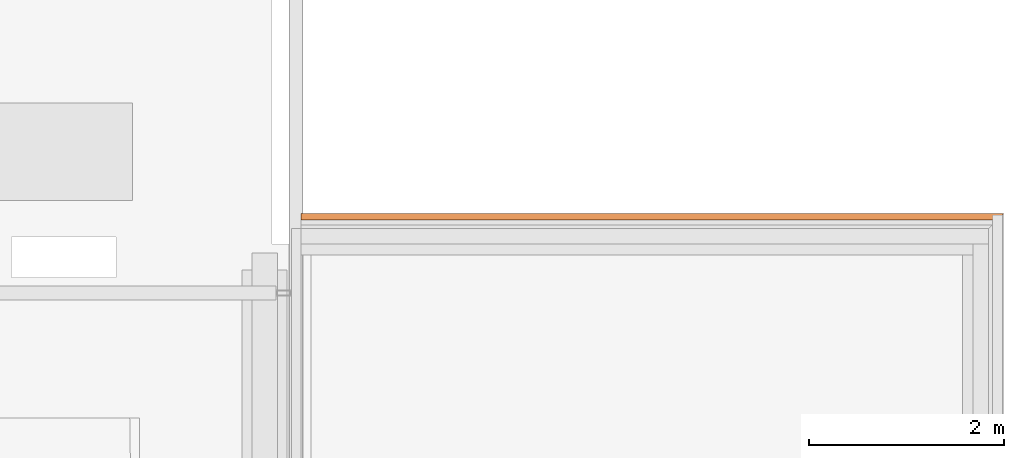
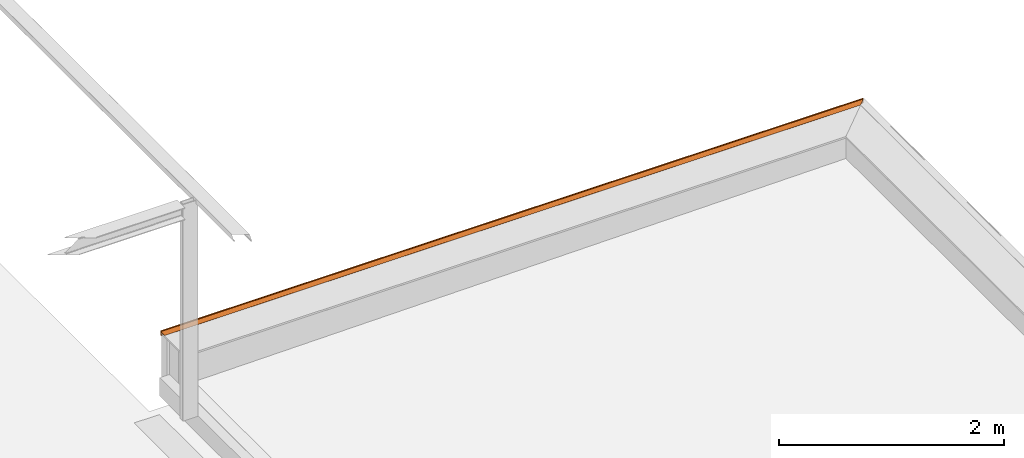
# One storey, part 32 of 32: 1 proxy.
"""IFC2X3 building model written with IfcOpenShell, lengths in millimetres."""

import ifcopenshell
import ifcopenshell.guid

model = None  # the IFC model being written
_history = None  # IfcOwnerHistory: only IFC2X3 demands one
_inside = {}  # id of a spatial element -> (the spatial element, [elements in it])
_under = {}  # id of a project, library or spatial element -> (it, [spatial elements below it])
_declared = {}  # id of a project -> (the project, [libraries it declares])
_typed = {}  # id of a type object -> (the type object, [elements of that type])
_made_of = {}  # id of a material, layer set ... -> (it, [elements and type objects made of it])


def new_model(schema):
    """Start an empty IFC model of exactly this schema.

    Asked for "IFC4X3", IfcOpenShell would pick the latest addendum, in which some entities
    have other attributes; the version numbers below select the first issue.
    IFC2X3 requires an IfcOwnerHistory on every rooted entity: one is made here for all.
    """
    global model, _history
    if schema == "IFC4X3":
        model = ifcopenshell.file(schema_version=(4, 3, 0, 0))
    else:
        model = ifcopenshell.file(schema=schema)
    _inside.clear()
    _under.clear()
    _declared.clear()
    _typed.clear()
    _made_of.clear()
    _history = None
    if model.schema == "IFC2X3":
        org = make("IfcOrganization", Name="unknown")
        user = make(
            "IfcPersonAndOrganization",
            ThePerson=make("IfcPerson", FamilyName="unknown"),
            TheOrganization=org,
        )
        app = make(
            "IfcApplication",
            ApplicationDeveloper=org,
            Version="unknown",
            ApplicationFullName="unknown",
            ApplicationIdentifier="unknown",
        )
        _history = make(
            "IfcOwnerHistory",
            OwningUser=user,
            OwningApplication=app,
            ChangeAction="ADDED",
            CreationDate=0,
        )
    return model


def make(cls, **values):
    """One entity of the class cls with the attributes given. An attribute that is None is left unset."""
    return model.create_entity(
        cls, **{name: value for name, value in values.items() if value is not None}
    )


def entity(cls, *values):
    """Any entity or typed value of the class cls, its attributes in the order of the schema. None: left unset."""
    e = model.create_entity(cls)
    for i, value in enumerate(values):
        if value is not None:
            e[i] = value
    return e


def rooted(cls, **values):
    """An entity with a GlobalId (a new one), such as an element, a storey or a relation."""
    return make(cls, GlobalId=ifcopenshell.guid.new(), OwnerHistory=_history, **values)


def si_unit(unit_type, name, prefix=None):
    """IfcSIUnit, for example si_unit("LENGTHUNIT", "METRE", prefix="MILLI")."""
    return make("IfcSIUnit", UnitType=unit_type, Prefix=prefix, Name=name)


def converted_unit(unit_type, name, factor, base, dimensions=None, offset=None):
    """IfcConversionBasedUnit, such as the inch: factor (a typed value) times the base unit."""
    return make(
        "IfcConversionBasedUnit"
        if offset is None
        else "IfcConversionBasedUnitWithOffset",
        ConversionOffset=offset,
        Dimensions=None
        if dimensions is None
        else entity("IfcDimensionalExponents", *dimensions),
        UnitType=unit_type,
        Name=name,
        ConversionFactor=make(
            "IfcMeasureWithUnit", ValueComponent=factor, UnitComponent=base
        ),
    )


def derived_unit(unit_type, elements):
    """IfcDerivedUnit: a product of units, each with its exponent."""
    return make(
        "IfcDerivedUnit",
        Elements=[
            make("IfcDerivedUnitElement", Unit=unit, Exponent=power)
            for unit, power in elements
        ],
        UnitType=unit_type,
    )


def assignment(units):
    """IfcUnitAssignment: the units of a project."""
    return None if units is None else make("IfcUnitAssignment", Units=units)


def point(xyz):
    """IfcCartesianPoint."""
    return None if xyz is None else make("IfcCartesianPoint", Coordinates=xyz)


def direction(xyz):
    """IfcDirection."""
    return None if xyz is None else make("IfcDirection", DirectionRatios=xyz)


def frame(location, z_axis=None, x_axis=None):
    """IfcAxis2Placement3D, a coordinate frame: its origin and axes. An axis left out is left unset."""
    return make(
        "IfcAxis2Placement3D",
        Location=point(location),
        Axis=direction(z_axis),
        RefDirection=direction(x_axis),
    )


def origin():
    """The frame at (0, 0, 0) with its axes left unset."""
    return frame((0.0, 0.0, 0.0))


def place(relative_to, where):
    """IfcLocalPlacement: puts the frame where relative to a parent placement (None: the world)."""
    return make(
        "IfcLocalPlacement", PlacementRelTo=relative_to, RelativePlacement=where
    )


def context(
    kind, dimensions, precision=None, world=None, true_north=None, identifier=None
):
    """IfcGeometricRepresentationContext, for example the 3D "Model" context."""
    return make(
        "IfcGeometricRepresentationContext",
        ContextIdentifier=identifier,
        ContextType=kind,
        CoordinateSpaceDimension=dimensions,
        Precision=precision,
        WorldCoordinateSystem=world,
        TrueNorth=true_north,
    )


def subcontext(parent, identifier, kind, view, scale=None):
    """IfcGeometricRepresentationSubContext, for example "Body" below "Model"."""
    return make(
        "IfcGeometricRepresentationSubContext",
        ContextIdentifier=identifier,
        ContextType=kind,
        ParentContext=parent,
        TargetScale=scale,
        TargetView=view,
    )


def project(units=None, contexts=None):
    """IfcProject with its units and contexts."""
    return rooted(
        "IfcProject",
        Name="project",
        RepresentationContexts=contexts,
        UnitsInContext=assignment(units),
    )


def spatial(cls, under=None, at=None, **own):
    """A site, building, storey or space (cls), placed at a placement, below another one or the project."""
    s = rooted(cls, ObjectPlacement=at, **own)
    if under is not None:
        _under.setdefault(under.id(), (under, []))[1].append(s)
    return s


def faces_of(points, faces, orient=None, outer=None):
    """IfcFace entities. A face is a list of loops; a loop is a list of indices into points, from 0.

    orient and outer hold one flag for each loop. By default every Orientation is true, the
    first loop of a face is its IfcFaceOuterBound and the others are IfcFaceBound.
    """
    made = []
    for i, loops in enumerate(faces):
        bounds = []
        for j, loop in enumerate(loops):
            is_outer = j == 0 if outer is None else outer[i][j]
            bounds.append(
                make(
                    "IfcFaceOuterBound" if is_outer else "IfcFaceBound",
                    Bound=make("IfcPolyLoop", Polygon=[points[k] for k in loop]),
                    Orientation=True if orient is None else orient[i][j],
                )
            )
        made.append(make("IfcFace", Bounds=bounds))
    return made


def faceted_brep(points, faces, orient=None, outer=None, voids=None):
    """IfcFacetedBrep: a solid bounded by flat faces; with voids (closed shells), ...WithVoids."""
    shared = [point(p) for p in points]
    hull = make("IfcClosedShell", CfsFaces=faces_of(shared, faces, orient, outer))
    if voids is None:
        return make("IfcFacetedBrep", Outer=hull)
    return make(
        "IfcFacetedBrepWithVoids",
        Outer=hull,
        Voids=[
            make(cls, CfsFaces=faces_of(shared, fs, o, b)) for cls, fs, o, b in voids
        ],
    )


def shape(context_of_items, identifier, shape_type, items):
    """IfcShapeRepresentation: the items that make up one representation, for example the "Body"."""
    return make(
        "IfcShapeRepresentation",
        ContextOfItems=context_of_items,
        RepresentationIdentifier=identifier,
        RepresentationType=shape_type,
        Items=items,
    )


def source(mapping_origin, context_of_items, identifier, shape_type, items):
    """IfcRepresentationMap: a shape defined once, which mapped items show again and again."""
    return make(
        "IfcRepresentationMap",
        MappingOrigin=mapping_origin,
        MappedRepresentation=shape(context_of_items, identifier, shape_type, items),
    )


def transform(
    local_origin,
    x_axis=None,
    y_axis=None,
    z_axis=None,
    scale=None,
    scale2=None,
    scale3=None,
    uniform=True,
):
    """IfcCartesianTransformationOperator3D, or its non-uniform kind. x_axis, y_axis, z_axis: its Axis1, 2, 3."""
    if uniform:
        return make(
            "IfcCartesianTransformationOperator3D",
            Axis1=direction(x_axis),
            Axis2=direction(y_axis),
            LocalOrigin=point(local_origin),
            Scale=scale,
            Axis3=direction(z_axis),
        )
    return make(
        "IfcCartesianTransformationOperator3DnonUniform",
        Axis1=direction(x_axis),
        Axis2=direction(y_axis),
        LocalOrigin=point(local_origin),
        Scale=scale,
        Axis3=direction(z_axis),
        Scale2=scale2,
        Scale3=scale3,
    )


def mapped(mapping_source, mapping_target):
    """IfcMappedItem: shows the shape of a source again, moved by a transform."""
    return make(
        "IfcMappedItem", MappingSource=mapping_source, MappingTarget=mapping_target
    )


def material(Name=None, Category=None):
    """IfcMaterial."""
    return make("IfcMaterial", Name=Name, Category=Category)


def made_of(thing, what):
    """Note that an element or type object is made of a material, layer set ...; save() writes the relation."""
    if what is not None:
        _made_of.setdefault(what.id(), (what, []))[1].append(thing)
    return thing


def type_object(cls, material=None, **own):
    """A type object (cls), such as IfcWallType, which elements share."""
    return made_of(rooted(cls, **own), material)


def type_shapes(of_type, sources):
    """Give a type object the sources (RepresentationMaps) that its elements show as mapped items."""
    of_type.RepresentationMaps = sources


def element(
    cls,
    number,
    at=None,
    inside=None,
    cuts=None,
    type_object=None,
    material=None,
    context=None,
    identifier="Body",
    shape_type=None,
    held_by="IfcProductDefinitionShape",
    body=None,
    shapes=None,
    **own,
):
    """One element of the class cls, such as IfcWall. Its Tag is "e" and its number.

    at: its placement. inside: the storey or other place that contains it. cuts: it is an
    opening in that element (IfcRelVoidsElement). A single representation is given by context,
    identifier, shape_type and body (its items); several are given by shapes. held_by: the class
    of the entity that holds the representations. save() writes the other relations.
    """
    e = rooted(cls, Tag="e%d" % number, ObjectPlacement=at, **own)
    if body is not None:
        shapes = [shape(context, identifier, shape_type, body)]
    if shapes is not None:
        e.Representation = make(held_by, Representations=shapes)
    if inside is not None:
        _inside.setdefault(inside.id(), (inside, []))[1].append(e)
    if cuts is not None:
        rooted(
            "IfcRelVoidsElement", RelatingBuildingElement=cuts, RelatedOpeningElement=e
        )
    if type_object is not None:
        _typed.setdefault(type_object.id(), (type_object, []))[1].append(e)
    return made_of(e, material)


def aggregate(whole, parts):
    """IfcRelAggregates: a whole, such as a stair, and the parts it consists of."""
    return rooted("IfcRelAggregates", RelatingObject=whole, RelatedObjects=parts)


def save(model, path):
    """Write the relations noted so far, then the file.

    IfcRelAggregates (storeys below a building ...), IfcRelContainedInSpatialStructure (elements
    in a storey), IfcRelDefinesByType, IfcRelAssociatesMaterial and IfcRelDeclares: one each for
    every whole, place, type object, material and project.
    """
    for whole, parts in _under.values():
        aggregate(whole, parts)
    for where, things in _inside.values():
        rooted(
            "IfcRelContainedInSpatialStructure",
            RelatedElements=things,
            RelatingStructure=where,
        )
    for kind, things in _typed.values():
        rooted("IfcRelDefinesByType", RelatedObjects=things, RelatingType=kind)
    for what, things in _made_of.values():
        rooted("IfcRelAssociatesMaterial", RelatedObjects=things, RelatingMaterial=what)
    for by, libraries in _declared.values():
        rooted("IfcRelDeclares", RelatingContext=by, RelatedDefinitions=libraries)
    model.write(path)


model = new_model("IFC2X3")

# Units and contexts
model_context = context("Model", 3, precision=0.01, world=origin(), true_north=direction((6.123031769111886e-17, 1.0)))
body_context = subcontext(model_context, "Body", "Model", "MODEL_VIEW")
ifc_project = project(units=[si_unit("LENGTHUNIT", "METRE", prefix="MILLI"), si_unit("AREAUNIT", "SQUARE_METRE"), si_unit("VOLUMEUNIT", "CUBIC_METRE"), converted_unit("PLANEANGLEUNIT", "DEGREE", entity("IfcRatioMeasure", 0.017453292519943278), si_unit("PLANEANGLEUNIT", "RADIAN"), dimensions=[0, 0, 0, 0, 0, 0, 0]), si_unit("MASSUNIT", "GRAM", prefix="KILO"), derived_unit("MASSDENSITYUNIT", [(si_unit("MASSUNIT", "GRAM", prefix="KILO"), 1), (si_unit("LENGTHUNIT", "METRE"), -3)]), derived_unit("IONCONCENTRATIONUNIT", [(si_unit("MASSUNIT", "GRAM", prefix="KILO"), 1), (si_unit("LENGTHUNIT", "METRE"), -3)]), derived_unit("MOMENTOFINERTIAUNIT", [(si_unit("LENGTHUNIT", "METRE"), 4)]), si_unit("TIMEUNIT", "SECOND"), si_unit("FREQUENCYUNIT", "HERTZ"), si_unit("THERMODYNAMICTEMPERATUREUNIT", "DEGREE_CELSIUS"), derived_unit("THERMALTRANSMITTANCEUNIT", [(si_unit("MASSUNIT", "GRAM", prefix="KILO"), 1), (si_unit("THERMODYNAMICTEMPERATUREUNIT", "KELVIN"), -1), (si_unit("TIMEUNIT", "SECOND"), -3)]), derived_unit("THERMALCONDUCTANCEUNIT", [(si_unit("MASSUNIT", "GRAM", prefix="KILO"), 1), (si_unit("THERMODYNAMICTEMPERATUREUNIT", "KELVIN"), -1), (si_unit("TIMEUNIT", "SECOND"), -3), (si_unit("LENGTHUNIT", "METRE"), 1)]), derived_unit("VOLUMETRICFLOWRATEUNIT", [(si_unit("LENGTHUNIT", "METRE"), 3), (si_unit("TIMEUNIT", "SECOND"), -1)]), derived_unit("MASSFLOWRATEUNIT", [(si_unit("MASSUNIT", "GRAM", prefix="KILO"), 1), (si_unit("TIMEUNIT", "SECOND"), -1)]), derived_unit("ROTATIONALFREQUENCYUNIT", [(si_unit("TIMEUNIT", "SECOND"), -1)]), si_unit("ELECTRICCURRENTUNIT", "AMPERE"), si_unit("ELECTRICVOLTAGEUNIT", "VOLT"), si_unit("POWERUNIT", "WATT"), si_unit("FORCEUNIT", "NEWTON", prefix="KILO"), si_unit("ILLUMINANCEUNIT", "LUX"), si_unit("LUMINOUSFLUXUNIT", "LUMEN"), si_unit("LUMINOUSINTENSITYUNIT", "CANDELA"), derived_unit("USERDEFINED", [(si_unit("MASSUNIT", "GRAM", prefix="KILO"), -1), (si_unit("LENGTHUNIT", "METRE"), -2), (si_unit("TIMEUNIT", "SECOND"), 3), (si_unit("LUMINOUSFLUXUNIT", "LUMEN"), 1)]), derived_unit("USERDEFINED", [(si_unit("MASSUNIT", "GRAM", prefix="KILO"), 1), (si_unit("TIMEUNIT", "SECOND"), -3), (si_unit("LENGTHUNIT", "METRE"), 3), (si_unit("ELECTRICCURRENTUNIT", "AMPERE"), -2)]), derived_unit("SOUNDPOWERUNIT", [(si_unit("MASSUNIT", "GRAM", prefix="KILO"), 1), (si_unit("TIMEUNIT", "SECOND"), -3), (si_unit("LENGTHUNIT", "METRE"), 2)]), derived_unit("SOUNDPRESSUREUNIT", [(si_unit("MASSUNIT", "GRAM", prefix="KILO"), 1), (si_unit("LENGTHUNIT", "METRE"), -1), (si_unit("TIMEUNIT", "SECOND"), -2)]), derived_unit("LINEARVELOCITYUNIT", [(si_unit("LENGTHUNIT", "METRE"), 1), (si_unit("TIMEUNIT", "SECOND"), -1)]), si_unit("PRESSUREUNIT", "PASCAL"), derived_unit("USERDEFINED", [(si_unit("MASSUNIT", "GRAM", prefix="KILO"), 1), (si_unit("LENGTHUNIT", "METRE"), -2), (si_unit("TIMEUNIT", "SECOND"), -2)]), derived_unit("LINEARFORCEUNIT", [(si_unit("MASSUNIT", "GRAM", prefix="KILO"), 1), (si_unit("TIMEUNIT", "SECOND"), -2)]), derived_unit("PLANARFORCEUNIT", [(si_unit("MASSUNIT", "GRAM", prefix="KILO"), 1), (si_unit("LENGTHUNIT", "METRE"), -1), (si_unit("TIMEUNIT", "SECOND"), -2)]), derived_unit("SPECIFICHEATCAPACITYUNIT", [(si_unit("THERMODYNAMICTEMPERATUREUNIT", "KELVIN"), -1), (si_unit("LENGTHUNIT", "METRE"), 2), (si_unit("TIMEUNIT", "SECOND"), -2)]), derived_unit("HEATINGVALUEUNIT", [(si_unit("LENGTHUNIT", "METRE"), 2), (si_unit("TIMEUNIT", "SECOND"), -2)]), derived_unit("VAPORPERMEABILITYUNIT", [(si_unit("LENGTHUNIT", "METRE"), -1), (si_unit("TIMEUNIT", "SECOND"), 1)]), derived_unit("DYNAMICVISCOSITYUNIT", [(si_unit("MASSUNIT", "GRAM", prefix="KILO"), 1), (si_unit("TIMEUNIT", "SECOND"), -1), (si_unit("LENGTHUNIT", "METRE"), -1)]), derived_unit("THERMALEXPANSIONCOEFFICIENTUNIT", [(si_unit("THERMODYNAMICTEMPERATUREUNIT", "KELVIN"), -1)]), derived_unit("MODULUSOFELASTICITYUNIT", [(si_unit("MASSUNIT", "GRAM", prefix="KILO"), 1), (si_unit("LENGTHUNIT", "METRE"), -1), (si_unit("TIMEUNIT", "SECOND"), -2)]), derived_unit("ISOTHERMALMOISTURECAPACITYUNIT", [(si_unit("LENGTHUNIT", "METRE"), 3), (si_unit("MASSUNIT", "GRAM", prefix="KILO"), -1)]), derived_unit("MOISTUREDIFFUSIVITYUNIT", [(si_unit("TIMEUNIT", "SECOND"), -1), (si_unit("LENGTHUNIT", "METRE"), 2)])], contexts=[model_context])

# Site, building, storey
site_placement = place(None, frame((0.0, 300.0, 0.0)))
site = spatial("IfcSite", under=ifc_project, at=site_placement, Name="<Kadastrale nummers>", CompositionType="ELEMENT")
building_placement = place(site_placement, origin())
building = spatial("IfcBuilding", under=site, at=building_placement, CompositionType="ELEMENT")
storey_placement = place(building_placement, frame((0.0, 0.0, 7150.000035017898)))
storey = spatial("IfcBuildingStorey", under=building, at=storey_placement, Name="02 tweede verdieping", CompositionType="ELEMENT", Elevation=7150.000035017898)

# Proxy
ifc_material = material(Name="STAAL_RAL 7006")
building_element_proxy_type = type_object("IfcBuildingElementProxyType", Name="NLRS_42_GM_WPB_dakrand_gen_ISR:dakrand_gen", PredefinedType="NOTDEFINED", material=ifc_material)
shared_shape = source(origin(), body_context, "Body", "Brep", [
    faceted_brep([(3608.5000000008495, 1.0, 14.0), (3608.5000000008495, 0.2928932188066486, 13.707106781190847), (3608.5000000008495, 0.0, 13.0), (3608.5000000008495, 0.0, -39.696774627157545), (3608.5000000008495, 0.4999999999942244, -40.562800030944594), (3608.5000000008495, 1.2588190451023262, -40.66270045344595), (3608.5000000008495, 11.252085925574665, -37.9850126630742), (3608.5000000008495, 11.95919270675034, -36.76026779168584), (3608.5000000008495, 10.734447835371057, -36.05316101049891), (3608.5000000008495, 3.2588190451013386, -38.05624970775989), (3608.5000000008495, 2.292893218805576, -37.797430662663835), (3608.5000000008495, 2.0, -37.0903238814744), (3608.5000000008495, 2.0, -28.0), (3608.5000000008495, 2.292893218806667, -27.292893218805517), (3608.5000000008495, 3.0, -27.0), (3608.5000000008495, 6.0, -27.0), (3608.5000000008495, 6.707106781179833, -26.707106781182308), (3608.5000000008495, 7.0, -26.0), (3608.5000000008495, 7.0, -23.0), (3608.5000000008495, 6.0, -22.0), (3608.5000000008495, 5.0, -23.0), (3608.5000000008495, 5.0, -24.0), (3608.5000000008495, 4.707106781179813, -24.707106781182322), (3608.5000000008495, 4.0, -25.0), (3608.5000000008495, 3.0, -25.0), (3608.5000000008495, 2.2928932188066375, -24.707106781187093), (3608.5000000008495, 2.0, -24.0), (3608.5000000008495, 2.0, -1.0), (3608.5000000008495, 2.2928932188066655, -0.29289321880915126), (3608.5000000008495, 3.0, 0.0), (3608.5000000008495, 4.0, 0.0), (3608.5000000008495, 4.7071067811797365, -0.2928932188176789), (3608.5000000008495, 5.0, -1.0), (3608.5000000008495, 5.0, -2.0), (3608.5000000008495, 6.0, -3.0), (3608.5000000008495, 7.0, -2.0), (3608.5000000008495, 7.0, -1.0), (3608.5000000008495, 7.292893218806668, -0.29289321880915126), (3608.5000000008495, 8.0, 0.0), (3608.5000000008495, 70.0, 0.0), (3608.5000000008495, 70.49999999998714, 0.4999999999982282), (3608.5000000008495, 70.0, 1.0), (3608.5000000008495, 65.49999999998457, 2.0), (3608.5000000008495, 3.0, 2.0), (3608.5000000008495, 2.2928932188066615, 2.292893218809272), (3608.5000000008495, 2.0, 3.0), (3608.5000000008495, 2.0, 11.0), (3608.5000000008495, 2.292893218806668, 11.707106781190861), (3608.5000000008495, 3.0, 12.0), (3608.5000000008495, 11.0, 12.0), (3608.5000000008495, 12.0, 13.0), (3608.5000000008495, 11.0, 14.0), (-3606.281831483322, 2.2181685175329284, 2.376510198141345), (-3606.500000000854, 2.0, 3.0), (-3605.500000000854, 3.0, 2.0), (-3606.123489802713, 2.3765101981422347, 11.781831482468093), (-3605.500000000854, 3.0, 12.0), (-3606.5000000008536, 2.0, 11.0), (-3597.500000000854, 11.0, 14.0), (-3596.5000000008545, 12.0, 13.0), (-3597.500000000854, 11.0, 12.0), (-3608.5000000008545, 0.0, 13.0), (-3608.281831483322, 0.21816851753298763, 13.62348980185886), (-3607.500000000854, 1.0, 14.0), (-3607.241180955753, 1.2588190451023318, -40.662700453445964), (-3608.0249765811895, 0.47502341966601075, -40.54789129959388), (-3608.5000000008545, 0.0, -39.69677462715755), (-3597.765552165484, 10.734447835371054, -36.05316101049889), (-3596.5408072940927, 11.959192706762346, -36.760267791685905), (-3597.24791407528, 11.252085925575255, -37.985012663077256), (-3606.500000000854, 2.0, -37.090323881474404), (-3606.1862416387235, 2.3137583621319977, -37.81769752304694), (-3605.2411809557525, 3.258819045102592, -38.056249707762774), (-3606.123489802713, 2.376510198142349, -27.21816851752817), (-3605.500000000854, 3.0, -27.0), (-3606.500000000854, 2.0, -28.0), (-3543.0, 65.49999999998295, 2.0), (-3538.500000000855, 70.0, 1.0), (-3538.0, 70.49999999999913, 0.49999999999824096), (-3538.500000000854, 70.0, 0.0), (-3600.500000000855, 8.0, 0.0), (-3605.500000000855, 3.0, 0.0), (-3604.500000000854, 4.0, 0.0), (-3601.123489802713, 7.376510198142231, -0.21816851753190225), (-3601.5000000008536, 7.0, -1.0), (-3601.5000000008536, 7.0, -2.0), (-3601.5000000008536, 7.0, -26.0), (-3601.5000000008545, 7.0, -23.0), (-3602.395471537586, 6.1045284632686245, -2.994521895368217), (-3603.500000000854, 5.0, -2.0), (-3603.500000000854, 5.0, -1.0), (-3603.500000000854, 5.0, -23.0), (-3603.5000000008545, 5.0, -24.0), (-3603.718168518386, 4.78183148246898, -0.37651019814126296), (-3606.123489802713, 2.376510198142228, -0.21816851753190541), (-3606.5000000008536, 2.0, -1.0), (-3606.500000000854, 2.0, -24.0), (-3606.281831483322, 2.2181685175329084, -24.623489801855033), (-3605.500000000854, 3.0, -25.0), (-3604.5000000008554, 4.0, -25.0), (-3603.8765101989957, 4.623489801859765, -24.781831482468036), (-3602.604528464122, 5.895471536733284, -22.00547810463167), (-3601.718168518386, 6.781831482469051, -26.62348980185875), (-3602.500000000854, 6.0, -27.0)], [[[0, 1, 2, 3, 4, 5, 6, 7, 8, 9, 10, 11, 12, 13, 14, 15, 16, 17, 18, 19, 20, 21, 22, 23, 24, 25, 26, 27, 28, 29, 30, 31, 32, 33, 34, 35, 36, 37, 38, 39, 40, 41, 42, 43, 44, 45, 46, 47, 48, 49, 50, 51]], [[45, 52, 53]], [[44, 52, 45]], [[43, 54, 44]], [[52, 44, 54]], [[48, 55, 56]], [[47, 55, 48]], [[46, 57, 47]], [[55, 47, 57]], [[58, 51, 50, 59]], [[49, 60, 59, 50]], [[61, 2, 62]], [[62, 2, 1]], [[1, 0, 63]], [[1, 63, 62]], [[64, 5, 4]], [[64, 4, 65]], [[65, 3, 66]], [[3, 65, 4]], [[67, 8, 7, 68]], [[6, 69, 68, 7]], [[11, 10, 70]], [[71, 70, 10]], [[9, 72, 71]], [[10, 9, 71]], [[14, 73, 74]], [[13, 73, 14]], [[12, 75, 13]], [[73, 13, 75]], [[76, 54, 43, 42]], [[77, 76, 42, 41]], [[77, 41, 40, 78]], [[39, 79, 78, 40]], [[80, 79, 39, 38]], [[81, 82, 30, 29]], [[38, 83, 80]], [[37, 83, 38]], [[36, 84, 37]], [[83, 37, 84]], [[85, 84, 36, 35]], [[86, 87, 18, 17]], [[85, 35, 88]], [[88, 35, 34]], [[34, 33, 89]], [[34, 89, 88]], [[90, 89, 33, 32]], [[91, 92, 21, 20]], [[32, 93, 90]], [[31, 93, 32]], [[30, 82, 31]], [[93, 31, 82]], [[29, 94, 81]], [[28, 94, 29]], [[27, 95, 28]], [[94, 28, 95]], [[96, 95, 27, 26]], [[70, 75, 12, 11]], [[53, 57, 46, 45]], [[26, 97, 96]], [[25, 97, 26]], [[24, 98, 25]], [[97, 25, 98]], [[99, 98, 24, 23]], [[23, 100, 99]], [[22, 100, 23]], [[21, 92, 22]], [[100, 22, 92]], [[91, 20, 101]], [[101, 20, 19]], [[19, 18, 87]], [[19, 87, 101]], [[86, 17, 102]], [[102, 17, 16]], [[16, 15, 103]], [[16, 103, 102]], [[74, 103, 15, 14]], [[67, 72, 9, 8]], [[64, 69, 6, 5]], [[61, 66, 3, 2]], [[58, 63, 0, 51]], [[56, 60, 49, 48]], [[61, 62, 63, 58, 59, 60, 56, 55, 57, 53, 52, 54, 76, 77, 78, 79, 80, 83, 84, 85, 88, 89, 90, 93, 82, 81, 94, 95, 96, 97, 98, 99, 100, 92, 91, 101, 87, 86, 102, 103, 74, 73, 75, 70, 71, 72, 67, 68, 69, 64, 65, 66]]]),
])
type_shapes(building_element_proxy_type, [shared_shape])
proxy_placement = place(storey_placement, frame((45383.500000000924, 47017.0, 567.9999649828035), z_axis=(0.0, 0.0, 1.0), x_axis=(-1.0, 0.0, 0.0)))
element("IfcBuildingElementProxy", 1, at=proxy_placement, inside=storey, type_object=building_element_proxy_type, material=ifc_material, Name="NLRS_42_GM_WPB_dakrand_gen_ISR:dakrand_gen", ObjectType="NLRS_42_GM_WPB_dakrand_gen_ISR:dakrand_gen", context=body_context, shape_type="MappedRepresentation", body=[
    mapped(shared_shape, transform((0.0, 0.0, 0.0), scale=1.0)),
])

save(model, "model.ifc")
